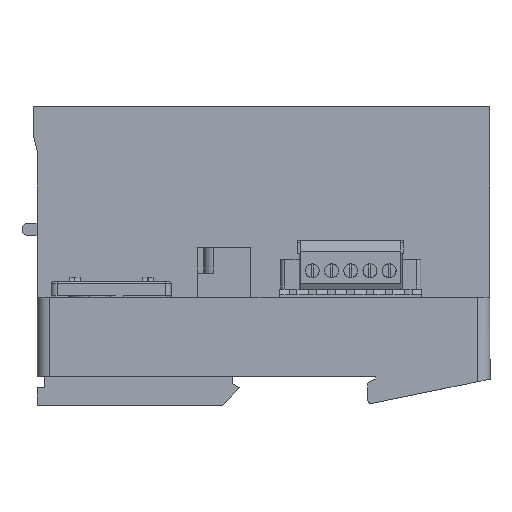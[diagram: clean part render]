
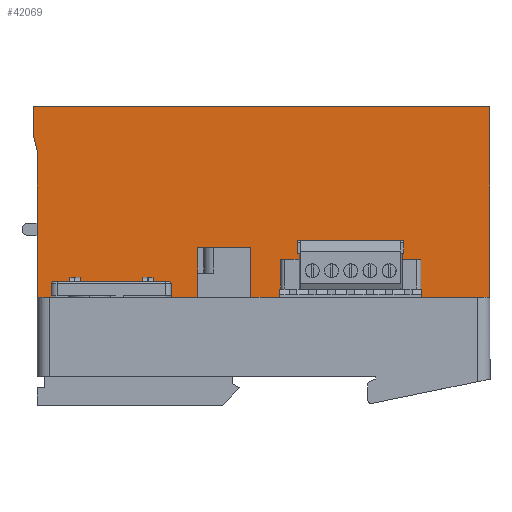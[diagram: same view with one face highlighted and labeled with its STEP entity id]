
A CAD part, left-side view. The second image highlights one B-rep face of the part: STEP entity #42069.
In plain terms, the highlighted planar face has unit normal (-1, 0, 0).
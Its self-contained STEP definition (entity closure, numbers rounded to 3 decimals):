
#520 = CARTESIAN_POINT ( 'NONE',  ( 9.441, -66.339, 74.5 ) ) ;
#1509 = LINE ( 'NONE', #28282, #42483 ) ;
#1561 = EDGE_CURVE ( 'NONE', #11693, #3467, #65412, .T. ) ;
#1855 = EDGE_CURVE ( 'NONE', #29751, #64432, #23498, .T. ) ;
#2175 = CARTESIAN_POINT ( 'NONE',  ( 9.441, 38.661, 31.8 ) ) ;
#3098 = LINE ( 'NONE', #49392, #31551 ) ;
#3467 = VERTEX_POINT ( 'NONE', #36092 ) ;
#4274 = EDGE_CURVE ( 'NONE', #22378, #22709, #29918, .T. ) ;
#4699 = VERTEX_POINT ( 'NONE', #62109 ) ;
#6783 = DIRECTION ( 'NONE',  ( 0., 0., -1. ) ) ;
#7041 = VERTEX_POINT ( 'NONE', #47346 ) ;
#8061 = EDGE_LOOP ( 'NONE', ( #39391, #17346, #26677, #57878, #36012, #29615, #54010, #63544, #49911, #45541, #39358, #18938, #44071, #15714 ) ) ;
#8565 = VECTOR ( 'NONE', #64586, 1000. ) ;
#8788 = CARTESIAN_POINT ( 'NONE',  ( 9.441, 37.461, 31.8 ) ) ;
#10068 = VECTOR ( 'NONE', #33765, 1000. ) ;
#10183 = VECTOR ( 'NONE', #6783, 1000. ) ;
#10524 = VECTOR ( 'NONE', #32381, 1000. ) ;
#11693 = VERTEX_POINT ( 'NONE', #45881 ) ;
#11953 = DIRECTION ( 'NONE',  ( 0., -1., 0. ) ) ;
#12461 = CARTESIAN_POINT ( 'NONE',  ( 9.441, 47.861, 74.5 ) ) ;
#12728 = VERTEX_POINT ( 'NONE', #32230 ) ;
#13440 = EDGE_CURVE ( 'NONE', #42681, #3467, #58783, .T. ) ;
#13888 = LINE ( 'NONE', #64652, #10524 ) ;
#14215 = DIRECTION ( 'NONE',  ( 0., 0.243, 0.97 ) ) ;
#15493 = DIRECTION ( 'NONE',  ( 0., 1., 0. ) ) ;
#15714 = ORIENTED_EDGE ( 'NONE', *, *, #62418, .F. ) ;
#15846 = DIRECTION ( 'NONE',  ( 0., -1., 0. ) ) ;
#15923 = LINE ( 'NONE', #60768, #42690 ) ;
#17143 = VERTEX_POINT ( 'NONE', #31579 ) ;
#17346 = ORIENTED_EDGE ( 'NONE', *, *, #36792, .T. ) ;
#18938 = ORIENTED_EDGE ( 'NONE', *, *, #36633, .F. ) ;
#20617 = CARTESIAN_POINT ( 'NONE',  ( 9.441, -66.339, 74.5 ) ) ;
#22378 = VERTEX_POINT ( 'NONE', #46860 ) ;
#22437 = CARTESIAN_POINT ( 'NONE',  ( 9.441, 19.061, 31.8 ) ) ;
#22709 = VERTEX_POINT ( 'NONE', #2175 ) ;
#23498 = LINE ( 'NONE', #42341, #50348 ) ;
#23724 = CARTESIAN_POINT ( 'NONE',  ( 9.441, -66.339, 40.5 ) ) ;
#24134 = DIRECTION ( 'NONE',  ( 0., 0., 1. ) ) ;
#25682 = VERTEX_POINT ( 'NONE', #66486 ) ;
#26677 = ORIENTED_EDGE ( 'NONE', *, *, #1855, .T. ) ;
#27648 = CARTESIAN_POINT ( 'NONE',  ( 9.441, 47.861, 27. ) ) ;
#27880 = DIRECTION ( 'NONE',  ( 0., 1., 0. ) ) ;
#28282 = CARTESIAN_POINT ( 'NONE',  ( 9.441, -13.839, 31.8 ) ) ;
#29615 = ORIENTED_EDGE ( 'NONE', *, *, #61362, .T. ) ;
#29751 = VERTEX_POINT ( 'NONE', #8788 ) ;
#29918 = LINE ( 'NONE', #57928, #56699 ) ;
#29994 = VECTOR ( 'NONE', #24134, 1000. ) ;
#30320 = VECTOR ( 'NONE', #27880, 1000. ) ;
#31086 = LINE ( 'NONE', #23724, #43627 ) ;
#31407 = PLANE ( 'NONE',  #62905 ) ;
#31551 = VECTOR ( 'NONE', #11953, 1000. ) ;
#31579 = CARTESIAN_POINT ( 'NONE',  ( 9.441, 46.861, 63.5 ) ) ;
#32230 = CARTESIAN_POINT ( 'NONE',  ( 9.441, 19.061, 27. ) ) ;
#32381 = DIRECTION ( 'NONE',  ( 0., 1., 0. ) ) ;
#32712 = CARTESIAN_POINT ( 'NONE',  ( 9.441, -66.339, 27. ) ) ;
#33702 = DIRECTION ( 'NONE',  ( 0., -1., 0. ) ) ;
#33765 = DIRECTION ( 'NONE',  ( 0., 0., 1. ) ) ;
#34118 = DIRECTION ( 'NONE',  ( 0., 0., 1. ) ) ;
#34773 = CARTESIAN_POINT ( 'NONE',  ( 9.441, 47.861, 67.5 ) ) ;
#36012 = ORIENTED_EDGE ( 'NONE', *, *, #45499, .T. ) ;
#36092 = CARTESIAN_POINT ( 'NONE',  ( 9.441, 17.861, 27. ) ) ;
#36633 = EDGE_CURVE ( 'NONE', #17143, #41369, #60673, .T. ) ;
#36792 = EDGE_CURVE ( 'NONE', #22709, #29751, #68186, .T. ) ;
#36973 = DIRECTION ( 'NONE',  ( 0., 0., -1. ) ) ;
#37071 = LINE ( 'NONE', #520, #8565 ) ;
#38126 = EDGE_CURVE ( 'NONE', #25682, #7041, #37071, .T. ) ;
#38529 = LINE ( 'NONE', #12461, #10068 ) ;
#38907 = EDGE_CURVE ( 'NONE', #7041, #42681, #31086, .T. ) ;
#39358 = ORIENTED_EDGE ( 'NONE', *, *, #39450, .F. ) ;
#39391 = ORIENTED_EDGE ( 'NONE', *, *, #4274, .T. ) ;
#39450 = EDGE_CURVE ( 'NONE', #41369, #25682, #38529, .T. ) ;
#41369 = VERTEX_POINT ( 'NONE', #34773 ) ;
#41464 = FACE_OUTER_BOUND ( 'NONE', #8061, .T. ) ;
#42069 = ADVANCED_FACE ( 'NONE', ( #41464 ), #31407, .F. ) ;
#42341 = CARTESIAN_POINT ( 'NONE',  ( 9.441, 37.461, 31.8 ) ) ;
#42483 = VECTOR ( 'NONE', #33702, 1000. ) ;
#42681 = VERTEX_POINT ( 'NONE', #32712 ) ;
#42690 = VECTOR ( 'NONE', #34118, 1000. ) ;
#43627 = VECTOR ( 'NONE', #55811, 1000. ) ;
#44071 = ORIENTED_EDGE ( 'NONE', *, *, #53399, .F. ) ;
#45499 = EDGE_CURVE ( 'NONE', #12728, #68103, #15923, .T. ) ;
#45541 = ORIENTED_EDGE ( 'NONE', *, *, #38126, .F. ) ;
#45881 = CARTESIAN_POINT ( 'NONE',  ( 9.441, 17.861, 31.8 ) ) ;
#46860 = CARTESIAN_POINT ( 'NONE',  ( 9.441, 38.661, 27. ) ) ;
#47346 = CARTESIAN_POINT ( 'NONE',  ( 9.441, -66.339, 74.5 ) ) ;
#47540 = DIRECTION ( 'NONE',  ( 1., 0., 0. ) ) ;
#49392 = CARTESIAN_POINT ( 'NONE',  ( 9.441, 37.461, 27. ) ) ;
#49911 = ORIENTED_EDGE ( 'NONE', *, *, #38907, .F. ) ;
#50348 = VECTOR ( 'NONE', #36973, 1000. ) ;
#51655 = CARTESIAN_POINT ( 'NONE',  ( 9.441, 45.326, 57.359 ) ) ;
#52274 = VECTOR ( 'NONE', #15846, 1000. ) ;
#53327 = CARTESIAN_POINT ( 'NONE',  ( 9.441, 37.461, 27. ) ) ;
#53399 = EDGE_CURVE ( 'NONE', #4699, #17143, #58457, .T. ) ;
#54010 = ORIENTED_EDGE ( 'NONE', *, *, #1561, .T. ) ;
#54275 = EDGE_CURVE ( 'NONE', #64432, #12728, #3098, .T. ) ;
#54976 = CARTESIAN_POINT ( 'NONE',  ( 9.441, 17.861, 51.95 ) ) ;
#55811 = DIRECTION ( 'NONE',  ( 0., 0., -1. ) ) ;
#56437 = CARTESIAN_POINT ( 'NONE',  ( 9.441, 46.861, 69. ) ) ;
#56699 = VECTOR ( 'NONE', #68694, 1000. ) ;
#57878 = ORIENTED_EDGE ( 'NONE', *, *, #54275, .T. ) ;
#57928 = CARTESIAN_POINT ( 'NONE',  ( 9.441, 38.661, 51.95 ) ) ;
#58457 = LINE ( 'NONE', #56437, #29994 ) ;
#58783 = LINE ( 'NONE', #27648, #30320 ) ;
#60673 = LINE ( 'NONE', #51655, #64032 ) ;
#60768 = CARTESIAN_POINT ( 'NONE',  ( 9.441, 19.061, 27. ) ) ;
#61362 = EDGE_CURVE ( 'NONE', #68103, #11693, #1509, .T. ) ;
#62109 = CARTESIAN_POINT ( 'NONE',  ( 9.441, 46.861, 27. ) ) ;
#62418 = EDGE_CURVE ( 'NONE', #22378, #4699, #13888, .T. ) ;
#62905 = AXIS2_PLACEMENT_3D ( 'NONE', #20617, #47540, #15493 ) ;
#63544 = ORIENTED_EDGE ( 'NONE', *, *, #13440, .F. ) ;
#63791 = CARTESIAN_POINT ( 'NONE',  ( 9.441, -13.839, 31.8 ) ) ;
#64032 = VECTOR ( 'NONE', #14215, 1000. ) ;
#64432 = VERTEX_POINT ( 'NONE', #53327 ) ;
#64586 = DIRECTION ( 'NONE',  ( 0., -1., 0. ) ) ;
#64652 = CARTESIAN_POINT ( 'NONE',  ( 9.441, 47.861, 27. ) ) ;
#65412 = LINE ( 'NONE', #54976, #10183 ) ;
#66486 = CARTESIAN_POINT ( 'NONE',  ( 9.441, 47.861, 74.5 ) ) ;
#68103 = VERTEX_POINT ( 'NONE', #22437 ) ;
#68186 = LINE ( 'NONE', #63791, #52274 ) ;
#68694 = DIRECTION ( 'NONE',  ( 0., 0., 1. ) ) ;
